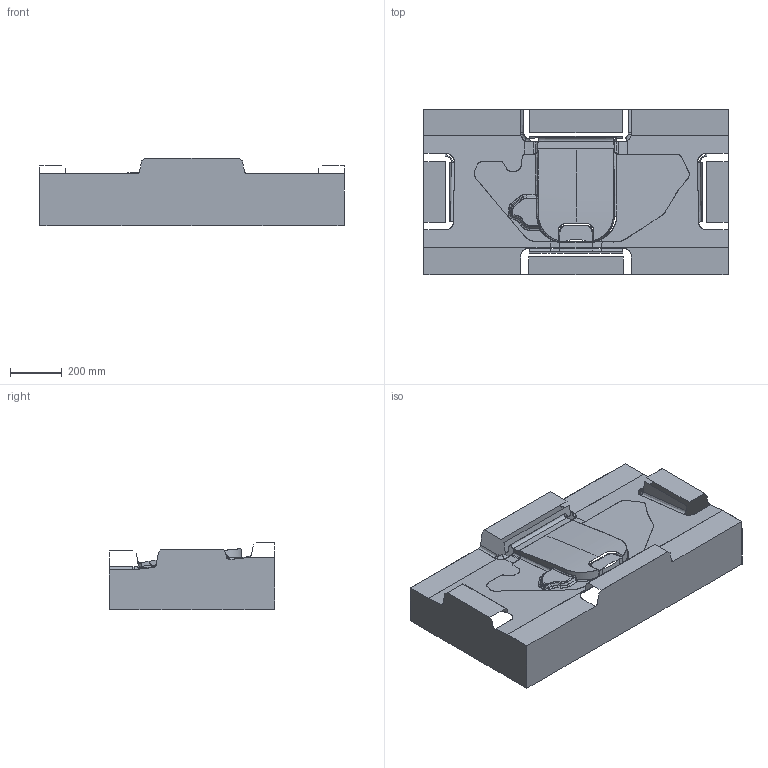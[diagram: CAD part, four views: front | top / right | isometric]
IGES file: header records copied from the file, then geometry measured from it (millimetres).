
Start section: ************************************************************************ VDAIS VERSION      : G3/AF1 IGES 5.1 ----------------------------INFORMATION ABOUT THE SENDER---------------- SEND COMPANY       : TARUS PRODUCTS INC. CONTACT PERSON     : ROB VALENTE TELEPHONE          : 586-977-1400 ADDRESS            : 38100 COMMERCE DR. STERLING HTS MI GENERATING SYSTEM  : Tebis CAD/CAM Version 3.5 R4 DAT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
Global section: native system: 3-4-2013; preprocessor: IGES 5.1; date: 130304.095143; units: millimetre
Bounding box: 1173 x 637.5 x 260.36 mm (x, y, z)
Surface area: 1499833.2 mm2 (no closed solid volume)
Topology: 0 solids, 0 shells, 137 faces, 7898 edges, 7898 vertices
Faces by surface type: bspline 137
